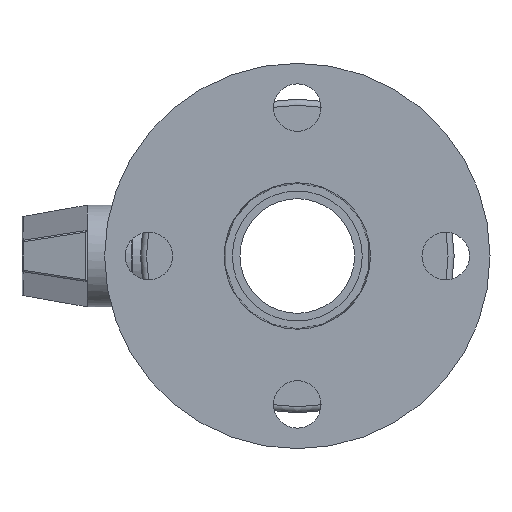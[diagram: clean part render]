
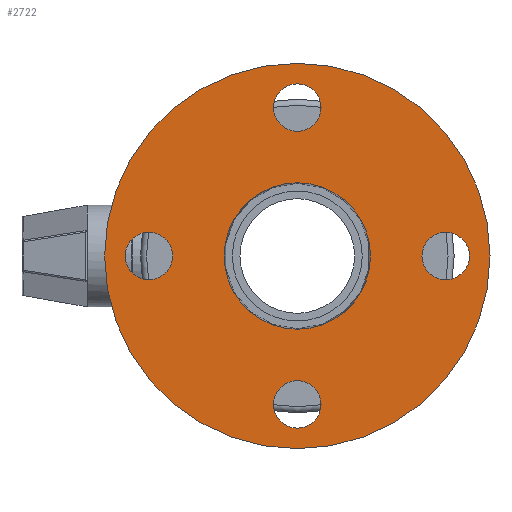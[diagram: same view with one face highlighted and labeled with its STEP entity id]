
A CAD part, left-side view. The second image highlights one B-rep face of the part: STEP entity #2722.
In plain terms, the highlighted planar face has unit normal (-1, 0, 0).
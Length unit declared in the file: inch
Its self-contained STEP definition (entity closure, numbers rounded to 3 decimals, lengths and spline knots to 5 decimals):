
#55 = EDGE_LOOP ( 'NONE', ( #2306 ) ) ;
#131 = AXIS2_PLACEMENT_3D ( 'NONE', #256, #1971, #2158 ) ;
#134 = AXIS2_PLACEMENT_3D ( 'NONE', #1490, #2504, #1030 ) ;
#140 = CIRCLE ( 'NONE', #1767, 0.31 ) ;
#146 = VERTEX_POINT ( 'NONE', #1851 ) ;
#209 = EDGE_LOOP ( 'NONE', ( #1820 ) ) ;
#250 = CARTESIAN_POINT ( 'NONE',  ( -4.8125, 0., 1.9375 ) ) ;
#254 = EDGE_LOOP ( 'NONE', ( #2916 ) ) ;
#256 = CARTESIAN_POINT ( 'NONE',  ( -4.8125, 0., 0. ) ) ;
#304 = FACE_BOUND ( 'NONE', #2936, .T. ) ;
#338 = CARTESIAN_POINT ( 'NONE',  ( -4.8125, 2.51562, 0. ) ) ;
#451 = EDGE_CURVE ( 'NONE', #146, #146, #2076, .T. ) ;
#462 = CARTESIAN_POINT ( 'NONE',  ( -4.8125, 0., 1.6275 ) ) ;
#496 = AXIS2_PLACEMENT_3D ( 'NONE', #2216, #2502, #541 ) ;
#520 = EDGE_LOOP ( 'NONE', ( #2233 ) ) ;
#541 = DIRECTION ( 'NONE',  ( 0., -1., 0. ) ) ;
#828 = CARTESIAN_POINT ( 'NONE',  ( -4.8125, 0.9555, 0. ) ) ;
#848 = CIRCLE ( 'NONE', #131, 0.9555 ) ;
#931 = DIRECTION ( 'NONE',  ( 0., 0., 1. ) ) ;
#1004 = CARTESIAN_POINT ( 'NONE',  ( -4.8125, -1.9375, 0. ) ) ;
#1030 = DIRECTION ( 'NONE',  ( 0., 1., 0. ) ) ;
#1253 = VERTEX_POINT ( 'NONE', #462 ) ;
#1267 = EDGE_CURVE ( 'NONE', #1585, #1585, #1513, .T. ) ;
#1271 = DIRECTION ( 'NONE',  ( -1., 0., 0. ) ) ;
#1319 = PLANE ( 'NONE',  #1528 ) ;
#1333 = FACE_BOUND ( 'NONE', #2956, .T. ) ;
#1355 = VERTEX_POINT ( 'NONE', #828 ) ;
#1383 = CIRCLE ( 'NONE', #2091, 0.31 ) ;
#1490 = CARTESIAN_POINT ( 'NONE',  ( -4.8125, 0., 0. ) ) ;
#1513 = CIRCLE ( 'NONE', #134, 2.51562 ) ;
#1528 = AXIS2_PLACEMENT_3D ( 'NONE', #338, #1587, #2791 ) ;
#1585 = VERTEX_POINT ( 'NONE', #2552 ) ;
#1587 = DIRECTION ( 'NONE',  ( -1., 0., 0. ) ) ;
#1624 = EDGE_CURVE ( 'NONE', #2999, #2999, #140, .T. ) ;
#1645 = ORIENTED_EDGE ( 'NONE', *, *, #2147, .F. ) ;
#1767 = AXIS2_PLACEMENT_3D ( 'NONE', #1004, #2933, #1944 ) ;
#1820 = ORIENTED_EDGE ( 'NONE', *, *, #1947, .T. ) ;
#1851 = CARTESIAN_POINT ( 'NONE',  ( -4.8125, 0., -1.6275 ) ) ;
#1892 = CARTESIAN_POINT ( 'NONE',  ( -4.8125, 0., -1.9375 ) ) ;
#1944 = DIRECTION ( 'NONE',  ( 0., 1., 0. ) ) ;
#1947 = EDGE_CURVE ( 'NONE', #1355, #1355, #848, .T. ) ;
#1971 = DIRECTION ( 'NONE',  ( 1., 0., 0. ) ) ;
#2000 = FACE_BOUND ( 'NONE', #209, .T. ) ;
#2076 = CIRCLE ( 'NONE', #2476, 0.31 ) ;
#2088 = CARTESIAN_POINT ( 'NONE',  ( -4.8125, -1.6275, 0. ) ) ;
#2091 = AXIS2_PLACEMENT_3D ( 'NONE', #250, #1271, #2909 ) ;
#2147 = EDGE_CURVE ( 'NONE', #2768, #2768, #2930, .T. ) ;
#2158 = DIRECTION ( 'NONE',  ( 0., 1., 0. ) ) ;
#2216 = CARTESIAN_POINT ( 'NONE',  ( -4.8125, 1.9375, 0. ) ) ;
#2233 = ORIENTED_EDGE ( 'NONE', *, *, #1267, .F. ) ;
#2301 = FACE_BOUND ( 'NONE', #55, .T. ) ;
#2306 = ORIENTED_EDGE ( 'NONE', *, *, #2841, .F. ) ;
#2476 = AXIS2_PLACEMENT_3D ( 'NONE', #1892, #2605, #931 ) ;
#2502 = DIRECTION ( 'NONE',  ( -1., 0., 0. ) ) ;
#2504 = DIRECTION ( 'NONE',  ( 1., 0., 0. ) ) ;
#2547 = CARTESIAN_POINT ( 'NONE',  ( -4.8125, 1.6275, 0. ) ) ;
#2552 = CARTESIAN_POINT ( 'NONE',  ( -4.8125, 2.51562, 0. ) ) ;
#2605 = DIRECTION ( 'NONE',  ( -1., 0., 0. ) ) ;
#2722 = ADVANCED_FACE ( 'NONE', ( #304, #2772, #2301, #1333, #2000, #2973 ), #1319, .T. ) ;
#2768 = VERTEX_POINT ( 'NONE', #2547 ) ;
#2772 = FACE_BOUND ( 'NONE', #254, .T. ) ;
#2791 = DIRECTION ( 'NONE',  ( 0., -1., 0. ) ) ;
#2841 = EDGE_CURVE ( 'NONE', #1253, #1253, #1383, .T. ) ;
#2909 = DIRECTION ( 'NONE',  ( 0., 0., -1. ) ) ;
#2916 = ORIENTED_EDGE ( 'NONE', *, *, #1624, .F. ) ;
#2930 = CIRCLE ( 'NONE', #496, 0.31 ) ;
#2933 = DIRECTION ( 'NONE',  ( -1., 0., 0. ) ) ;
#2936 = EDGE_LOOP ( 'NONE', ( #3037 ) ) ;
#2956 = EDGE_LOOP ( 'NONE', ( #1645 ) ) ;
#2973 = FACE_OUTER_BOUND ( 'NONE', #520, .T. ) ;
#2999 = VERTEX_POINT ( 'NONE', #2088 ) ;
#3037 = ORIENTED_EDGE ( 'NONE', *, *, #451, .F. ) ;
